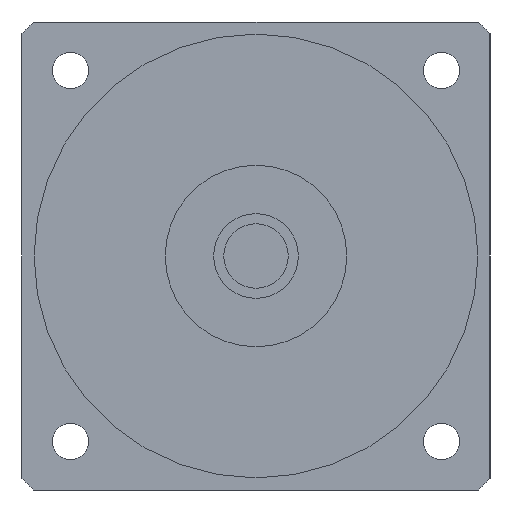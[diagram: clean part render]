
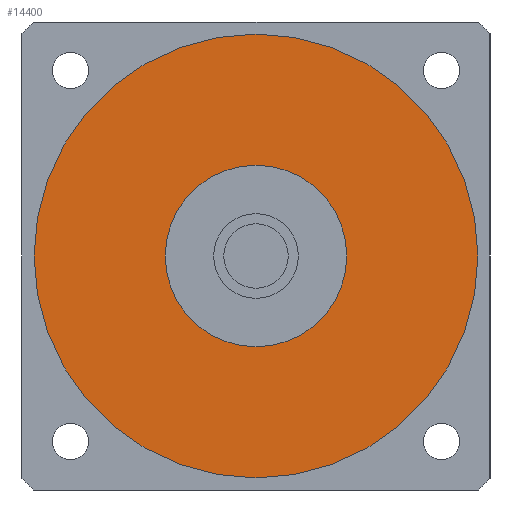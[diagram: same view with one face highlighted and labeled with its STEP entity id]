
A CAD part, left-side view. The second image highlights one B-rep face of the part: STEP entity #14400.
In plain terms, the highlighted planar face has unit normal (-1, 0, 0) as drawn and (0, 0, -1) by its records, which use the part's own axes.
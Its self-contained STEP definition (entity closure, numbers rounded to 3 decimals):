
#13820=CARTESIAN_POINT('',(55.,0.,-38.7));
#13830=VERTEX_POINT('',#13820);
#13920=CARTESIAN_POINT('',(-55.,0.,-38.7));
#13930=VERTEX_POINT('',#13920);
#13960=CARTESIAN_POINT('',(0.,0.,
-38.7));
#13970=DIRECTION('',(0.,0.,1.));
#13980=DIRECTION('',(0.,1.,0.));
#13990=AXIS2_PLACEMENT_3D('',#13960,#13970,#13980);
#14000=CIRCLE('',#13990,55.);
#14010=CARTESIAN_POINT('',(0.,55.,-38.7));
#14020=VERTEX_POINT('',#14010);
#14030=EDGE_CURVE('',#14020,#13930,#14000,.T.);
#14050=EDGE_CURVE('',#13830,#14020,#14000,.T.);
#14100=CARTESIAN_POINT('',(0.,0.,
-38.7));
#14110=DIRECTION('',(0.,0.,1.));
#14120=DIRECTION('',(-1.,0.,0.));
#14130=AXIS2_PLACEMENT_3D('',#14100,#14110,#14120);
#14140=PLANE('',#14130);
#14150=ORIENTED_EDGE('',*,*,#14030,.F.);
#14160=EDGE_CURVE('',#13930,#13830,#14000,.T.);
#14170=ORIENTED_EDGE('',*,*,#14160,.F.);
#14180=ORIENTED_EDGE('',*,*,#14050,.F.);
#14190=EDGE_LOOP('',(#14180,#14170,#14150));
#14200=FACE_OUTER_BOUND('',#14190,.T.);
#14210=CARTESIAN_POINT('',(0.,0.,
-38.7));
#14220=DIRECTION('',(0.,0.,1.));
#14230=DIRECTION('',(0.,1.,0.));
#14240=AXIS2_PLACEMENT_3D('',#14210,#14220,#14230);
#14250=CIRCLE('',#14240,22.5);
#14260=CARTESIAN_POINT('',(-22.5,0.,-38.7));
#14270=VERTEX_POINT('',#14260);
#14280=CARTESIAN_POINT('',(22.5,0.,-38.7));
#14290=VERTEX_POINT('',#14280);
#14300=EDGE_CURVE('',#14270,#14290,#14250,.T.);
#14310=ORIENTED_EDGE('',*,*,#14300,.T.);
#14320=CARTESIAN_POINT('',(0.,22.5,-38.7));
#14330=VERTEX_POINT('',#14320);
#14340=EDGE_CURVE('',#14330,#14270,#14250,.T.);
#14350=ORIENTED_EDGE('',*,*,#14340,.T.);
#14360=EDGE_CURVE('',#14290,#14330,#14250,.T.);
#14370=ORIENTED_EDGE('',*,*,#14360,.T.);
#14380=EDGE_LOOP('',(#14370,#14350,#14310));
#14390=FACE_BOUND('',#14380,.T.);
#14400=ADVANCED_FACE('',(#14200,#14390),#14140,.F.);
